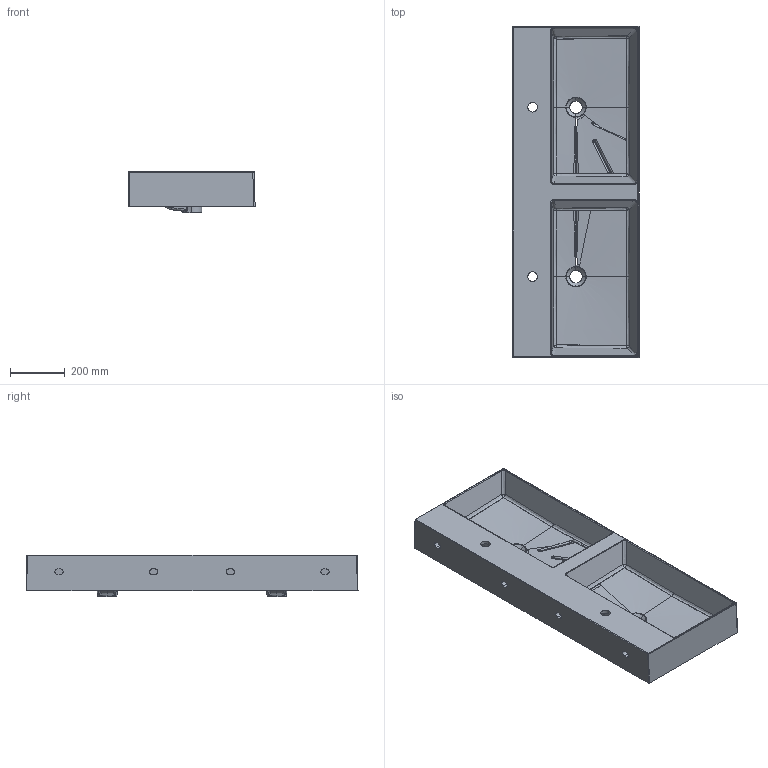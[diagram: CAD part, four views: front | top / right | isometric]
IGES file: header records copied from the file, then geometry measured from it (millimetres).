
Start section: START RECORD GO HERE.
Global section: file name: 8966_MEG Pro 121 x 46 DV.igs; native system: DASSAULT SYSTEMES CATIA V5 R19 - www.3ds.com; preprocessor: CATIA Version 5 Release 19 SP 5 ; author: gioge; organization: LAPTOP-G94B6G74; date: 20200630.151538; units: millimetre
Bounding box: 460.4 x 1210.81 x 151.5 mm (x, y, z)
Surface area: 2199945 mm2 (no closed solid volume)
Topology: 0 solids, 0 shells, 957 faces, 4470 edges, 4380 vertices
Faces by surface type: bspline 508, revolution 362, plane 87
